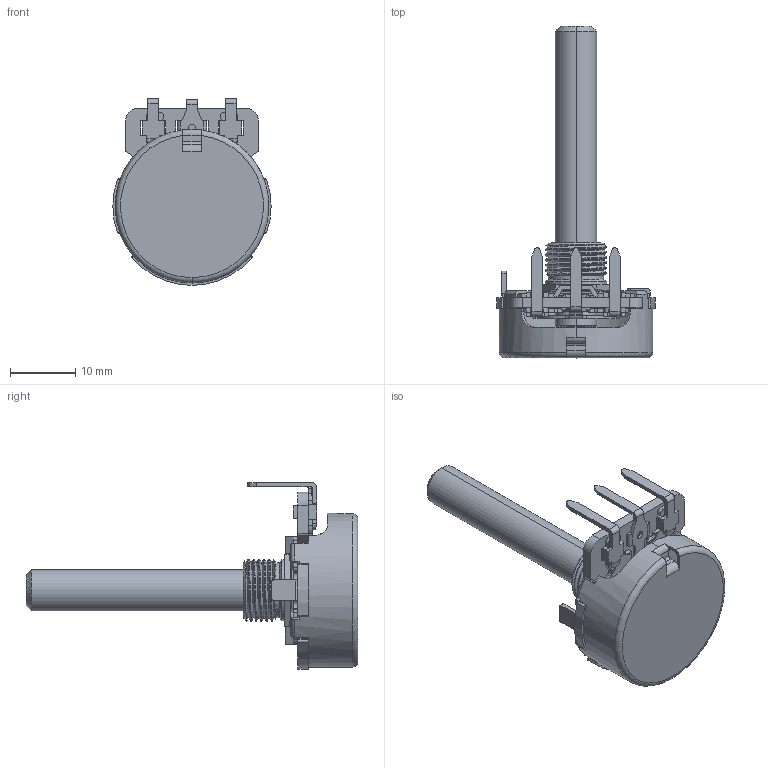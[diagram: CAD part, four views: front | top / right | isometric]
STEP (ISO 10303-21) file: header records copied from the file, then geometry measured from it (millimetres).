
FILE_DESCRIPTION (( 'STEP AP214' ), '1' );
FILE_NAME ('450U250R103B1A1.STEP', '2019-05-27T01:18:25', ( '' ), ( '' ), 'SwSTEP 2.0', 'SolidWorks 2019', '' );
FILE_SCHEMA (( 'AUTOMOTIVE_DESIGN' ));
Length unit declared in the file: millimetre
Products named in the file (10): U450AEDF(use 450A-104G); 450F-9 for U450AEDF; 4S78269; 450B-4; 450A-104G; 450U250R103B1A1; 450D-5 for U450DAEDF and T08 base_Bending Forward_DPDT Switch Fit Actual Forming Die; 450 element; P45Q_Flat Bottom_45Q54 withFenderTradeMark_NewDetentSetting_07102012; 45C-2T-Left lug
Assembly tree (10 placements, depth 3):
  450U250R103B1A1
    P45Q_Flat Bottom_45Q54 withFenderTradeMark_NewDetentSetting_07102012
    U450AEDF(use 450A-104G)
      450 element
      450D-5 for U450DAEDF and T08 base_Bending Forward_DPDT Switch Fit Actual Forming Die
      450F-9 for U450AEDF  x2
      450A-104G
    45C-2T-Left lug
    450B-4
    4S78269
Bounding box: 24.33 x 51 x 28.71 mm (x, y, z)
Volume: 3396.2 mm3; surface area: 6822.9 mm2
Topology: 9 solids, 9 shells, 671 faces, 1810 edges, 1158 vertices
Faces by surface type: plane 401, cylinder 219, cone 23, torus 18, bspline 10
Entity records: 20931 total; most frequent: CARTESIAN_POINT 4839, ORIENTED_EDGE 3328, DIRECTION 3265, EDGE_CURVE 1664, AXIS2_PLACEMENT_3D 1102, VERTEX_POINT 1065, LINE 1061, VECTOR 1061
